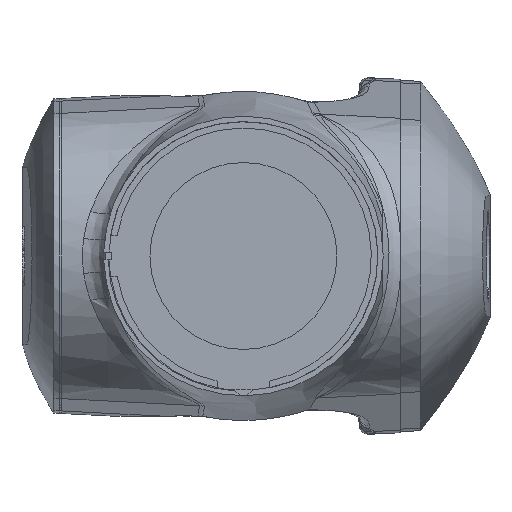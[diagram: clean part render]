
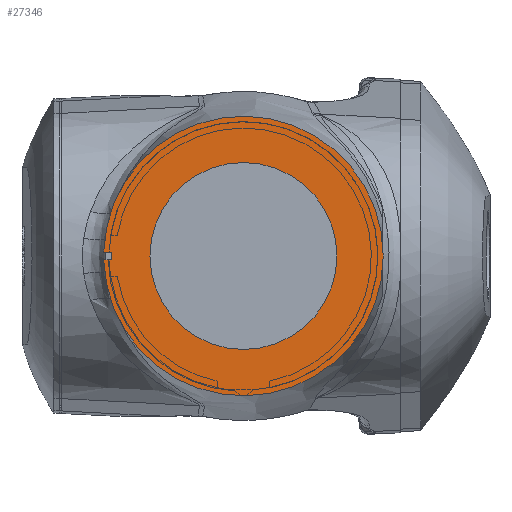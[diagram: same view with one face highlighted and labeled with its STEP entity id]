
A CAD part, left-side view. The second image highlights one B-rep face of the part: STEP entity #27346.
In plain terms, the highlighted planar face has unit normal (-1, 0, 0).
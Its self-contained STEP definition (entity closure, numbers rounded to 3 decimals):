
#79 = CARTESIAN_POINT ( 'NONE',  ( 533.002, 0., 2525. ) ) ;
#1984 = EDGE_CURVE ( 'NONE', #23261, #13203, #16045, .T. ) ;
#4289 = VECTOR ( 'NONE', #4462, 1000. ) ;
#4462 = DIRECTION ( 'NONE',  ( 0., -1., 0. ) ) ;
#4711 = FACE_OUTER_BOUND ( 'NONE', #40829, .T. ) ;
#7294 = VECTOR ( 'NONE', #28085, 1000. ) ;
#7598 = CARTESIAN_POINT ( 'NONE',  ( 533.002, 0., 2529. ) ) ;
#7853 = CARTESIAN_POINT ( 'NONE',  ( 533.002, 0., 2525. ) ) ;
#8293 = ORIENTED_EDGE ( 'NONE', *, *, #29123, .T. ) ;
#8713 = CARTESIAN_POINT ( 'NONE',  ( 533.002, 134., 2525. ) ) ;
#10998 = CARTESIAN_POINT ( 'NONE',  ( 533.002, -95., 2525. ) ) ;
#11949 = VECTOR ( 'NONE', #31552, 1000. ) ;
#12170 = ORIENTED_EDGE ( 'NONE', *, *, #31943, .F. ) ;
#12370 = EDGE_CURVE ( 'NONE', #13203, #40086, #13378, .T. ) ;
#13054 = EDGE_LOOP ( 'NONE', ( #12170 ) ) ;
#13203 = VERTEX_POINT ( 'NONE', #19567 ) ;
#13378 = CIRCLE ( 'NONE', #21474, 142. ) ;
#16045 = LINE ( 'NONE', #41890, #7294 ) ;
#18005 = DIRECTION ( 'NONE',  ( -1., 0., 0. ) ) ;
#19220 = CARTESIAN_POINT ( 'NONE',  ( 533.002, 134., 2521. ) ) ;
#19567 = CARTESIAN_POINT ( 'NONE',  ( 533.002, 141.944, 2521. ) ) ;
#19895 = ORIENTED_EDGE ( 'NONE', *, *, #1984, .T. ) ;
#20966 = PLANE ( 'NONE',  #27116 ) ;
#21474 = AXIS2_PLACEMENT_3D ( 'NONE', #79, #25848, #38846 ) ;
#22669 = CARTESIAN_POINT ( 'NONE',  ( 533.002, 0., 2525. ) ) ;
#23075 = DIRECTION ( 'NONE',  ( 0., -1., 0. ) ) ;
#23261 = VERTEX_POINT ( 'NONE', #19220 ) ;
#24545 = DIRECTION ( 'NONE',  ( 0., -1., 0. ) ) ;
#24950 = EDGE_CURVE ( 'NONE', #23261, #25994, #37765, .T. ) ;
#25848 = DIRECTION ( 'NONE',  ( -1., 0., 0. ) ) ;
#25994 = VERTEX_POINT ( 'NONE', #30587 ) ;
#26974 = ORIENTED_EDGE ( 'NONE', *, *, #24950, .F. ) ;
#27116 = AXIS2_PLACEMENT_3D ( 'NONE', #7853, #18005, #24545 ) ;
#27346 = ADVANCED_FACE ( 'NONE', ( #31324, #4711 ), #20966, .T. ) ;
#28085 = DIRECTION ( 'NONE',  ( 0., 1., 0. ) ) ;
#29123 = EDGE_CURVE ( 'NONE', #40086, #25994, #37062, .T. ) ;
#30587 = CARTESIAN_POINT ( 'NONE',  ( 533.002, 134., 2529. ) ) ;
#31324 = FACE_BOUND ( 'NONE', #13054, .T. ) ;
#31552 = DIRECTION ( 'NONE',  ( 0., 0., 1. ) ) ;
#31943 = EDGE_CURVE ( 'NONE', #33234, #33234, #33740, .T. ) ;
#33234 = VERTEX_POINT ( 'NONE', #10998 ) ;
#33740 = CIRCLE ( 'NONE', #34412, 95. ) ;
#34412 = AXIS2_PLACEMENT_3D ( 'NONE', #22669, #39009, #23075 ) ;
#34555 = ORIENTED_EDGE ( 'NONE', *, *, #12370, .T. ) ;
#37062 = LINE ( 'NONE', #7598, #4289 ) ;
#37765 = LINE ( 'NONE', #8713, #11949 ) ;
#38846 = DIRECTION ( 'NONE',  ( 0., -1., 0. ) ) ;
#39009 = DIRECTION ( 'NONE',  ( -1., 0., 0. ) ) ;
#40086 = VERTEX_POINT ( 'NONE', #40925 ) ;
#40829 = EDGE_LOOP ( 'NONE', ( #26974, #19895, #34555, #8293 ) ) ;
#40925 = CARTESIAN_POINT ( 'NONE',  ( 533.002, 141.944, 2529. ) ) ;
#41890 = CARTESIAN_POINT ( 'NONE',  ( 533.002, 0., 2521. ) ) ;
